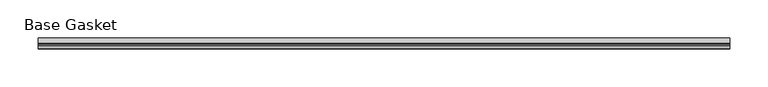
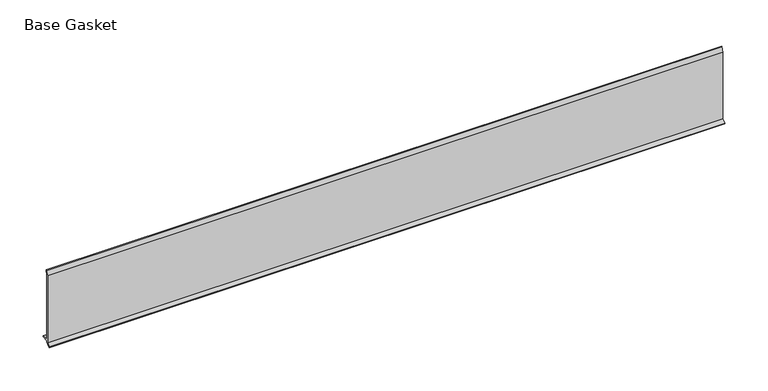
"""IFC4 building model written with IfcOpenShell, lengths in millimetres: furniture geometry, Gasket-Teknion-FHGB-AI_Healthcare-R2021 : Base Gasket."""

from ifc_helpers import new_model, si_unit, frame, origin, place, context, project, spatial, polyline, outline, extrude, source, transform, mapped, element, save


def base_gasket_d70255cc(model_context):
    return source(origin(), model_context, "Body", "SweptSolid", [
        extrude(outline(polyline([(-3.7283812, 98.4568417), (-1.1891543, 104.587663), (-0.6755308, 105.2002997), (-0.6755308, 104.4162708), (-2.2043812, 98.4568417), (-2.2043812, 96.8693477), (-1.4106313, 96.8693477), (-1.4106313, 71.4693447), (-2.2043812, 71.4693447), (-2.2043812, 7.9398773), (6.2405171, 7.9398773), (6.2405171, 6.3818476), (-2.1334222, 6.3818476), (-2.2043812, 4.3498477), (-6.8281054, 0.3520979), (-7.8482342, 0.0), (-7.4222115, 0.6560174), (-3.7283812, 4.3498477), (-3.7283812, 98.4568417)])), frame((-1527.8982117, 0.0, 0.0), z_axis=(1.0, 0.0, 0.0), x_axis=(0.0, 1.0, 0.0)), (0.0, 0.0, 1.0), 901.7),
    ])


if __name__ == "__main__":
    model = new_model("IFC4")
    model_context = context("Model", 3, world=origin())
    ifc_project = project(units=[si_unit("LENGTHUNIT", "METRE", prefix="MILLI")], contexts=[model_context])
    site = spatial("IfcSite", under=ifc_project)
    building = spatial("IfcBuilding", under=site)
    placement = place(None, origin())
    base_gasket_shape = base_gasket_d70255cc(model_context)
    element("IfcFurniture", 1, ObjectType="Gasket-Teknion-FHGB-AI_Healthcare-R2021 : Base Gasket", at=placement, inside=building, context=model_context, shape_type="MappedRepresentation", body=[
        mapped(base_gasket_shape, transform((0.0, 0.0, 0.0), x_axis=(1.0, 0.0, 0.0), y_axis=(0.0, 1.0, 0.0), z_axis=(0.0, 0.0, 1.0))),
    ])
    save(model, "model.ifc")
